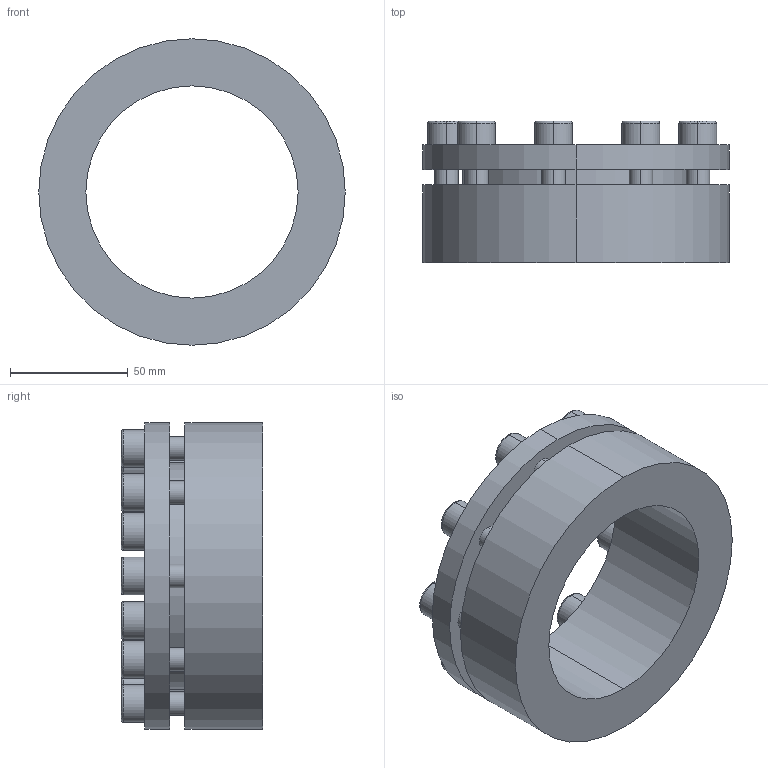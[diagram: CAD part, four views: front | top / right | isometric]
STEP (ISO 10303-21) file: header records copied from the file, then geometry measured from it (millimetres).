
FILE_DESCRIPTION (( 'STEP AP203' ), '1' );
FILE_NAME ('PL-H1 90-130.STEP', '2021-10-23T00:56:58', ( '' ), ( '' ), 'SwSTEP 2.0', 'SolidWorks 2018', '' );
FILE_SCHEMA (( 'CONFIG_CONTROL_DESIGN' ));
Length unit declared in the file: millimetre
Products named in the file (1): PL-H1 90-130
Bounding box: 130 x 60 x 130 mm (x, y, z)
Volume: 326449.3 mm3; surface area: 65753.1 mm2
Topology: 1 solids, 1 shells, 138 faces, 330 edges, 214 vertices
Faces by surface type: plane 76, cylinder 44, torus 18
Entity records: 4131 total; most frequent: DIRECTION 732, CARTESIAN_POINT 683, ORIENTED_EDGE 660, EDGE_CURVE 330, AXIS2_PLACEMENT_3D 263, VERTEX_POINT 214, LINE 206, VECTOR 206
